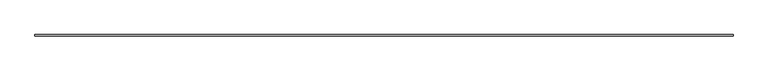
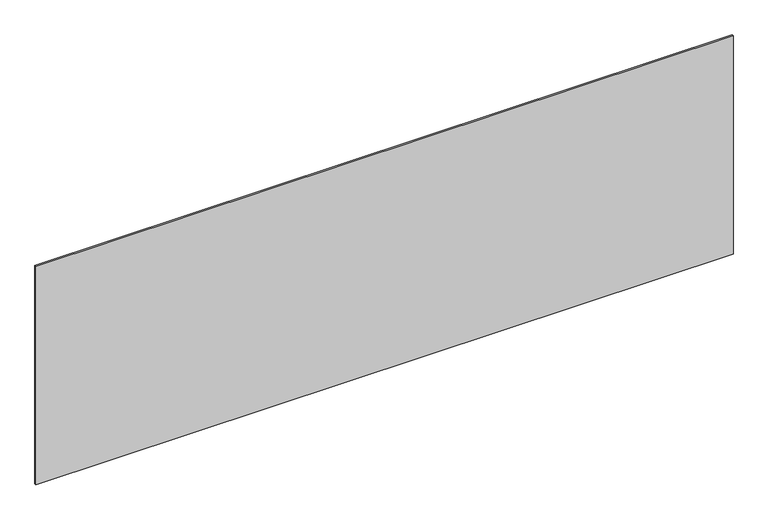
"""IFC4 building model written with IfcOpenShell, lengths in millimetres: plate geometry, システム パネル : 標準."""

import ifcopenshell
import ifcopenshell.guid

model = None  # the IFC model being written
_history = None  # IfcOwnerHistory: only IFC2X3 demands one
_inside = {}  # id of a spatial element -> (the spatial element, [elements in it])
_under = {}  # id of a project, library or spatial element -> (it, [spatial elements below it])
_declared = {}  # id of a project -> (the project, [libraries it declares])
_typed = {}  # id of a type object -> (the type object, [elements of that type])
_made_of = {}  # id of a material, layer set ... -> (it, [elements and type objects made of it])


def new_model(schema):
    """Start an empty IFC model of exactly this schema.

    Asked for "IFC4X3", IfcOpenShell would pick the latest addendum, in which some entities
    have other attributes; the version numbers below select the first issue.
    IFC2X3 requires an IfcOwnerHistory on every rooted entity: one is made here for all.
    """
    global model, _history
    if schema == "IFC4X3":
        model = ifcopenshell.file(schema_version=(4, 3, 0, 0))
    else:
        model = ifcopenshell.file(schema=schema)
    _inside.clear()
    _under.clear()
    _declared.clear()
    _typed.clear()
    _made_of.clear()
    _history = None
    if model.schema == "IFC2X3":
        org = make("IfcOrganization", Name="unknown")
        user = make(
            "IfcPersonAndOrganization",
            ThePerson=make("IfcPerson", FamilyName="unknown"),
            TheOrganization=org,
        )
        app = make(
            "IfcApplication",
            ApplicationDeveloper=org,
            Version="unknown",
            ApplicationFullName="unknown",
            ApplicationIdentifier="unknown",
        )
        _history = make(
            "IfcOwnerHistory",
            OwningUser=user,
            OwningApplication=app,
            ChangeAction="ADDED",
            CreationDate=0,
        )
    return model


def make(cls, **values):
    """One entity of the class cls with the attributes given. An attribute that is None is left unset."""
    return model.create_entity(
        cls, **{name: value for name, value in values.items() if value is not None}
    )


def rooted(cls, **values):
    """An entity with a GlobalId (a new one), such as an element, a storey or a relation."""
    return make(cls, GlobalId=ifcopenshell.guid.new(), OwnerHistory=_history, **values)


def si_unit(unit_type, name, prefix=None):
    """IfcSIUnit, for example si_unit("LENGTHUNIT", "METRE", prefix="MILLI")."""
    return make("IfcSIUnit", UnitType=unit_type, Prefix=prefix, Name=name)


def assignment(units):
    """IfcUnitAssignment: the units of a project."""
    return None if units is None else make("IfcUnitAssignment", Units=units)


def point(xyz):
    """IfcCartesianPoint."""
    return None if xyz is None else make("IfcCartesianPoint", Coordinates=xyz)


def direction(xyz):
    """IfcDirection."""
    return None if xyz is None else make("IfcDirection", DirectionRatios=xyz)


def frame(location, z_axis=None, x_axis=None):
    """IfcAxis2Placement3D, a coordinate frame: its origin and axes. An axis left out is left unset."""
    return make(
        "IfcAxis2Placement3D",
        Location=point(location),
        Axis=direction(z_axis),
        RefDirection=direction(x_axis),
    )


def origin():
    """The frame at (0, 0, 0) with its axes left unset."""
    return frame((0.0, 0.0, 0.0))


def origin_with_axes():
    """The frame at (0, 0, 0) with the z axis (0, 0, 1) and the x axis (1, 0, 0) written out."""
    return frame((0.0, 0.0, 0.0), z_axis=(0.0, 0.0, 1.0), x_axis=(1.0, 0.0, 0.0))


def place(relative_to, where):
    """IfcLocalPlacement: puts the frame where relative to a parent placement (None: the world)."""
    return make(
        "IfcLocalPlacement", PlacementRelTo=relative_to, RelativePlacement=where
    )


def context(
    kind, dimensions, precision=None, world=None, true_north=None, identifier=None
):
    """IfcGeometricRepresentationContext, for example the 3D "Model" context."""
    return make(
        "IfcGeometricRepresentationContext",
        ContextIdentifier=identifier,
        ContextType=kind,
        CoordinateSpaceDimension=dimensions,
        Precision=precision,
        WorldCoordinateSystem=world,
        TrueNorth=true_north,
    )


def project(units=None, contexts=None):
    """IfcProject with its units and contexts."""
    return rooted(
        "IfcProject",
        Name="project",
        RepresentationContexts=contexts,
        UnitsInContext=assignment(units),
    )


def spatial(cls, under=None, at=None, **own):
    """A site, building, storey or space (cls), placed at a placement, below another one or the project."""
    s = rooted(cls, ObjectPlacement=at, **own)
    if under is not None:
        _under.setdefault(under.id(), (under, []))[1].append(s)
    return s


def polyline(points):
    """IfcPolyline through the points."""
    return make("IfcPolyline", Points=[point(p) for p in points])


def outline(outer, holes=None, kind="AREA"):
    """IfcArbitraryClosedProfileDef: a profile drawn as a closed curve; with holes, ...WithVoids."""
    if holes is None:
        return make("IfcArbitraryClosedProfileDef", ProfileType=kind, OuterCurve=outer)
    return make(
        "IfcArbitraryProfileDefWithVoids",
        ProfileType=kind,
        OuterCurve=outer,
        InnerCurves=holes,
    )


def extrude(swept, where, along, depth):
    """IfcExtrudedAreaSolid: the profile swept, set in the frame where, extruded along a direction by depth."""
    return make(
        "IfcExtrudedAreaSolid",
        SweptArea=swept,
        Position=where,
        ExtrudedDirection=direction(along),
        Depth=depth,
    )


def shape(context_of_items, identifier, shape_type, items):
    """IfcShapeRepresentation: the items that make up one representation, for example the "Body"."""
    return make(
        "IfcShapeRepresentation",
        ContextOfItems=context_of_items,
        RepresentationIdentifier=identifier,
        RepresentationType=shape_type,
        Items=items,
    )


def source(mapping_origin, context_of_items, identifier, shape_type, items):
    """IfcRepresentationMap: a shape defined once, which mapped items show again and again."""
    return make(
        "IfcRepresentationMap",
        MappingOrigin=mapping_origin,
        MappedRepresentation=shape(context_of_items, identifier, shape_type, items),
    )


def transform(
    local_origin,
    x_axis=None,
    y_axis=None,
    z_axis=None,
    scale=None,
    scale2=None,
    scale3=None,
    uniform=True,
):
    """IfcCartesianTransformationOperator3D, or its non-uniform kind. x_axis, y_axis, z_axis: its Axis1, 2, 3."""
    if uniform:
        return make(
            "IfcCartesianTransformationOperator3D",
            Axis1=direction(x_axis),
            Axis2=direction(y_axis),
            LocalOrigin=point(local_origin),
            Scale=scale,
            Axis3=direction(z_axis),
        )
    return make(
        "IfcCartesianTransformationOperator3DnonUniform",
        Axis1=direction(x_axis),
        Axis2=direction(y_axis),
        LocalOrigin=point(local_origin),
        Scale=scale,
        Axis3=direction(z_axis),
        Scale2=scale2,
        Scale3=scale3,
    )


def mapped(mapping_source, mapping_target):
    """IfcMappedItem: shows the shape of a source again, moved by a transform."""
    return make(
        "IfcMappedItem", MappingSource=mapping_source, MappingTarget=mapping_target
    )


def made_of(thing, what):
    """Note that an element or type object is made of a material, layer set ...; save() writes the relation."""
    if what is not None:
        _made_of.setdefault(what.id(), (what, []))[1].append(thing)
    return thing


def element(
    cls,
    number,
    at=None,
    inside=None,
    cuts=None,
    type_object=None,
    material=None,
    context=None,
    identifier="Body",
    shape_type=None,
    held_by="IfcProductDefinitionShape",
    body=None,
    shapes=None,
    **own,
):
    """One element of the class cls, such as IfcWall. Its Tag is "e" and its number.

    at: its placement. inside: the storey or other place that contains it. cuts: it is an
    opening in that element (IfcRelVoidsElement). A single representation is given by context,
    identifier, shape_type and body (its items); several are given by shapes. held_by: the class
    of the entity that holds the representations. save() writes the other relations.
    """
    e = rooted(cls, Tag="e%d" % number, ObjectPlacement=at, **own)
    if body is not None:
        shapes = [shape(context, identifier, shape_type, body)]
    if shapes is not None:
        e.Representation = make(held_by, Representations=shapes)
    if inside is not None:
        _inside.setdefault(inside.id(), (inside, []))[1].append(e)
    if cuts is not None:
        rooted(
            "IfcRelVoidsElement", RelatingBuildingElement=cuts, RelatedOpeningElement=e
        )
    if type_object is not None:
        _typed.setdefault(type_object.id(), (type_object, []))[1].append(e)
    return made_of(e, material)


def aggregate(whole, parts):
    """IfcRelAggregates: a whole, such as a stair, and the parts it consists of."""
    return rooted("IfcRelAggregates", RelatingObject=whole, RelatedObjects=parts)


def save(model, path):
    """Write the relations noted so far, then the file.

    IfcRelAggregates (storeys below a building ...), IfcRelContainedInSpatialStructure (elements
    in a storey), IfcRelDefinesByType, IfcRelAssociatesMaterial and IfcRelDeclares: one each for
    every whole, place, type object, material and project.
    """
    for whole, parts in _under.values():
        aggregate(whole, parts)
    for where, things in _inside.values():
        rooted(
            "IfcRelContainedInSpatialStructure",
            RelatedElements=things,
            RelatingStructure=where,
        )
    for kind, things in _typed.values():
        rooted("IfcRelDefinesByType", RelatedObjects=things, RelatingType=kind)
    for what, things in _made_of.values():
        rooted("IfcRelAssociatesMaterial", RelatedObjects=things, RelatingMaterial=what)
    for by, libraries in _declared.values():
        rooted("IfcRelDeclares", RelatingContext=by, RelatedDefinitions=libraries)
    model.write(path)


def plate_67e70ea2(model_context):
    return source(origin(), model_context, "Body", "SweptSolid", [
        extrude(outline(polyline([(2264.1666667, -5.0), (-2264.1666667, -5.0), (-2264.1666667, 5.0), (2264.1666667, 5.0), (2264.1666667, -5.0)])), origin_with_axes(), (0.0, 0.0, 1.0), 1501.0563962),
    ])


if __name__ == "__main__":
    model = new_model("IFC4")
    model_context = context("Model", 3, world=origin())
    ifc_project = project(units=[si_unit("LENGTHUNIT", "METRE", prefix="MILLI")], contexts=[model_context])
    site = spatial("IfcSite", under=ifc_project)
    building = spatial("IfcBuilding", under=site)
    placement = place(None, origin())
    plate_shape = plate_67e70ea2(model_context)
    element("IfcPlate", 1, ObjectType="システム パネル : 標準", at=placement, inside=building, context=model_context, shape_type="MappedRepresentation", body=[
        mapped(plate_shape, transform((0.0, 0.0, 0.0), x_axis=(1.0, 0.0, 0.0), y_axis=(0.0, 1.0, 0.0), z_axis=(0.0, 0.0, 1.0))),
    ])
    save(model, "model.ifc")
